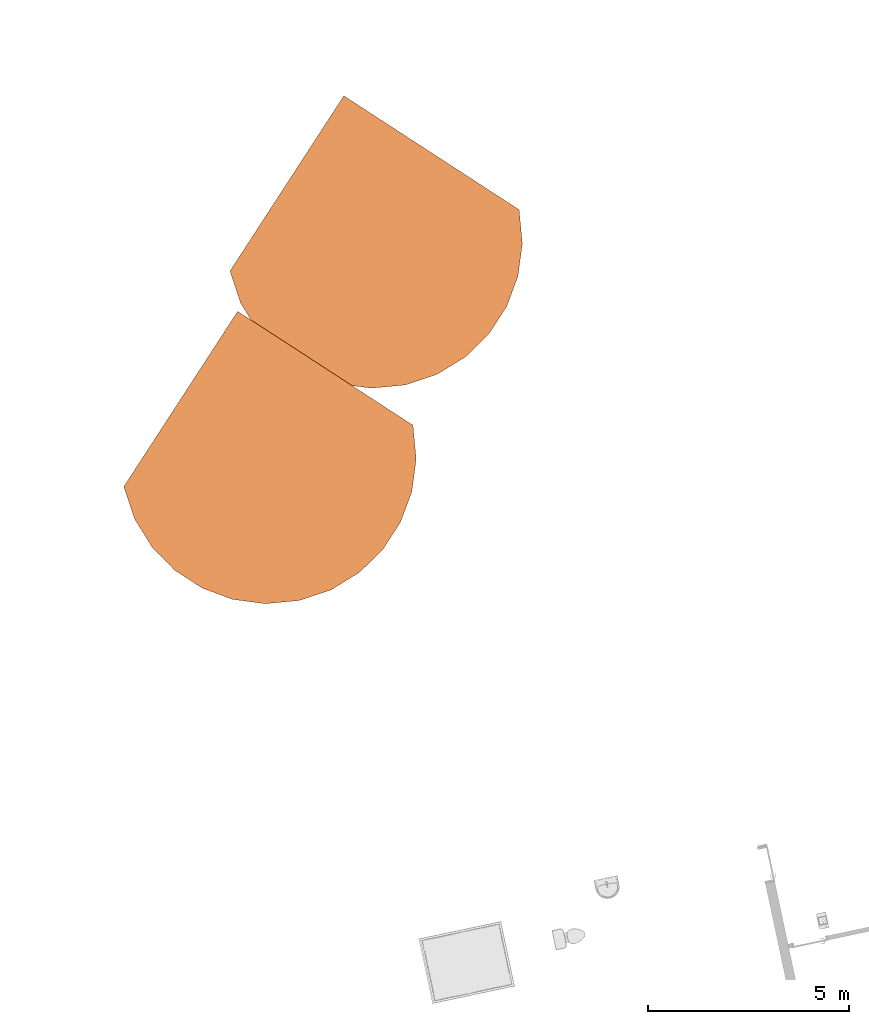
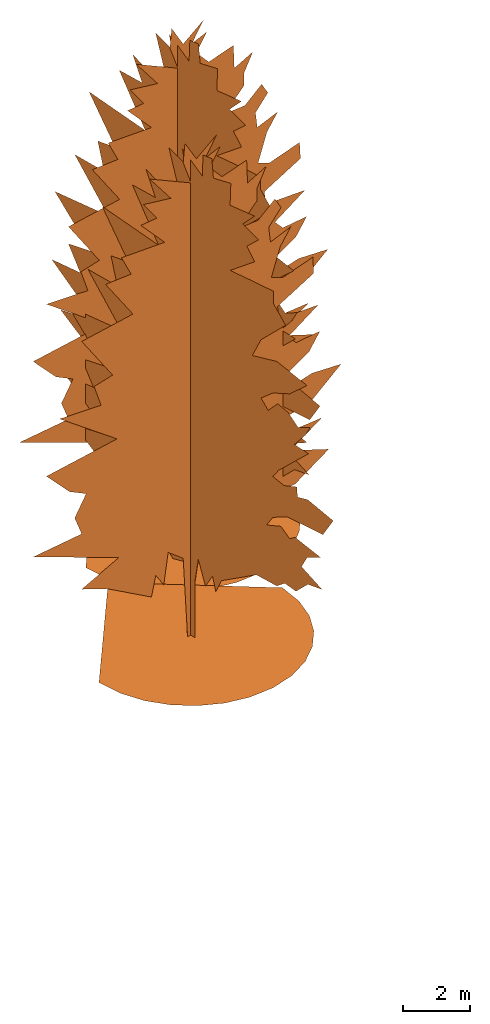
# One storey, part 16 of 17: 2 proxies.
"""IFC2X3 building model written with IfcOpenShell, lengths in centimetres."""

from ifc_helpers import new_model, entity, si_unit, converted_unit, derived_unit, direction, frame, origin, place, context, subcontext, project, spatial, face_set, surface_model, source, transform, mapped, material, type_object, type_shapes, element, save


model = new_model("IFC2X3")

# Units and contexts
model_context = context("Model", 3, precision=0.001, world=origin(), true_north=direction((6.12303176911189e-17, 1.0)))
body_context = subcontext(model_context, "Body", "Model", "MODEL_VIEW")
ifc_project = project(units=[si_unit("LENGTHUNIT", "METRE", prefix="CENTI"), si_unit("AREAUNIT", "SQUARE_METRE"), si_unit("VOLUMEUNIT", "CUBIC_METRE"), converted_unit("PLANEANGLEUNIT", "DEGREE", entity("IfcRatioMeasure", 0.0174532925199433), si_unit("PLANEANGLEUNIT", "RADIAN"), dimensions=[0, 0, 0, 0, 0, 0, 0]), si_unit("MASSUNIT", "GRAM", prefix="KILO"), derived_unit("MASSDENSITYUNIT", [(si_unit("MASSUNIT", "GRAM", prefix="KILO"), 1), (si_unit("LENGTHUNIT", "METRE"), -3)]), derived_unit("IONCONCENTRATIONUNIT", [(si_unit("MASSUNIT", "GRAM", prefix="KILO"), 1), (si_unit("LENGTHUNIT", "METRE"), -3)]), derived_unit("MOMENTOFINERTIAUNIT", [(si_unit("LENGTHUNIT", "METRE"), 4)]), si_unit("TIMEUNIT", "SECOND"), si_unit("FREQUENCYUNIT", "HERTZ"), si_unit("THERMODYNAMICTEMPERATUREUNIT", "DEGREE_CELSIUS"), derived_unit("THERMALTRANSMITTANCEUNIT", [(si_unit("MASSUNIT", "GRAM", prefix="KILO"), 1), (si_unit("THERMODYNAMICTEMPERATUREUNIT", "KELVIN"), -1), (si_unit("TIMEUNIT", "SECOND"), -3)]), derived_unit("THERMALCONDUCTANCEUNIT", [(si_unit("MASSUNIT", "GRAM", prefix="KILO"), 1), (si_unit("THERMODYNAMICTEMPERATUREUNIT", "KELVIN"), -1), (si_unit("TIMEUNIT", "SECOND"), -3), (si_unit("LENGTHUNIT", "METRE"), 1)]), derived_unit("VOLUMETRICFLOWRATEUNIT", [(si_unit("LENGTHUNIT", "METRE"), 3), (si_unit("TIMEUNIT", "SECOND"), -1)]), derived_unit("MASSFLOWRATEUNIT", [(si_unit("MASSUNIT", "GRAM", prefix="KILO"), 1), (si_unit("TIMEUNIT", "SECOND"), -1)]), derived_unit("ROTATIONALFREQUENCYUNIT", [(si_unit("TIMEUNIT", "SECOND"), -1)]), si_unit("ELECTRICCURRENTUNIT", "AMPERE"), si_unit("ELECTRICVOLTAGEUNIT", "VOLT"), si_unit("POWERUNIT", "WATT"), si_unit("FORCEUNIT", "NEWTON", prefix="KILO"), si_unit("ILLUMINANCEUNIT", "LUX"), si_unit("LUMINOUSFLUXUNIT", "LUMEN"), si_unit("LUMINOUSINTENSITYUNIT", "CANDELA"), derived_unit("USERDEFINED", [(si_unit("MASSUNIT", "GRAM", prefix="KILO"), -1), (si_unit("LENGTHUNIT", "METRE"), -2), (si_unit("TIMEUNIT", "SECOND"), 3), (si_unit("LUMINOUSFLUXUNIT", "LUMEN"), 1)]), derived_unit("USERDEFINED", [(si_unit("MASSUNIT", "GRAM", prefix="KILO"), 1), (si_unit("TIMEUNIT", "SECOND"), -3), (si_unit("LENGTHUNIT", "METRE"), 3), (si_unit("ELECTRICCURRENTUNIT", "AMPERE"), -2)]), derived_unit("SOUNDPOWERUNIT", [(si_unit("MASSUNIT", "GRAM", prefix="KILO"), 1), (si_unit("TIMEUNIT", "SECOND"), -3), (si_unit("LENGTHUNIT", "METRE"), 2)]), derived_unit("SOUNDPRESSUREUNIT", [(si_unit("MASSUNIT", "GRAM", prefix="KILO"), 1), (si_unit("LENGTHUNIT", "METRE"), -1), (si_unit("TIMEUNIT", "SECOND"), -2)]), derived_unit("LINEARVELOCITYUNIT", [(si_unit("LENGTHUNIT", "METRE"), 1), (si_unit("TIMEUNIT", "SECOND"), -1)]), si_unit("PRESSUREUNIT", "PASCAL"), derived_unit("USERDEFINED", [(si_unit("MASSUNIT", "GRAM", prefix="KILO"), 1), (si_unit("LENGTHUNIT", "METRE"), -2), (si_unit("TIMEUNIT", "SECOND"), -2)]), derived_unit("LINEARFORCEUNIT", [(si_unit("MASSUNIT", "GRAM", prefix="KILO"), 1), (si_unit("TIMEUNIT", "SECOND"), -2)]), derived_unit("PLANARFORCEUNIT", [(si_unit("MASSUNIT", "GRAM", prefix="KILO"), 1), (si_unit("LENGTHUNIT", "METRE"), -1), (si_unit("TIMEUNIT", "SECOND"), -2)]), derived_unit("SPECIFICHEATCAPACITYUNIT", [(si_unit("THERMODYNAMICTEMPERATUREUNIT", "KELVIN"), -1), (si_unit("LENGTHUNIT", "METRE"), 2), (si_unit("TIMEUNIT", "SECOND"), -2)]), derived_unit("HEATINGVALUEUNIT", [(si_unit("LENGTHUNIT", "METRE"), 2), (si_unit("TIMEUNIT", "SECOND"), -2)]), derived_unit("VAPORPERMEABILITYUNIT", [(si_unit("LENGTHUNIT", "METRE"), -1), (si_unit("TIMEUNIT", "SECOND"), 1)]), derived_unit("DYNAMICVISCOSITYUNIT", [(si_unit("MASSUNIT", "GRAM", prefix="KILO"), 1), (si_unit("TIMEUNIT", "SECOND"), -1), (si_unit("LENGTHUNIT", "METRE"), -1)]), derived_unit("THERMALEXPANSIONCOEFFICIENTUNIT", [(si_unit("THERMODYNAMICTEMPERATUREUNIT", "KELVIN"), -1)]), derived_unit("MODULUSOFELASTICITYUNIT", [(si_unit("MASSUNIT", "GRAM", prefix="KILO"), 1), (si_unit("LENGTHUNIT", "METRE"), -1), (si_unit("TIMEUNIT", "SECOND"), -2)]), derived_unit("ISOTHERMALMOISTURECAPACITYUNIT", [(si_unit("LENGTHUNIT", "METRE"), 3), (si_unit("MASSUNIT", "GRAM", prefix="KILO"), -1)]), derived_unit("MOISTUREDIFFUSIVITYUNIT", [(si_unit("TIMEUNIT", "SECOND"), -1), (si_unit("LENGTHUNIT", "METRE"), 2)])], contexts=[model_context])

# Site, building, storey
site_placement = place(None, frame((14083.8920177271, -6853.25409548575, 6900.0), z_axis=(0.0, 0.0, 1.0), x_axis=(0.978188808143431, 0.207717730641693, 0.0)))
site = spatial("IfcSite", under=ifc_project, at=site_placement, Name="Surface", CompositionType="ELEMENT")
building_placement = place(site_placement, origin())
building = spatial("IfcBuilding", under=site, at=building_placement, CompositionType="ELEMENT")
storey_placement = place(building_placement, origin())
storey = spatial("IfcBuildingStorey", under=building, at=storey_placement, Name="_Rez de chaussée Séjour", CompositionType="ELEMENT", Elevation=2.07727662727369e-10)

# Proxies
ifc_material = material(Name="<Unnamed>")
building_element_proxy_type = type_object("IfcBuildingElementProxyType", Name="PLANTE- Conifères divers:Pin en tige remontée_ Grand", PredefinedType="NOTDEFINED", material=ifc_material)
shared_shape = source(origin(), body_context, "Body", "SurfaceModel", [
    surface_model("IfcFaceBasedSurfaceModel", [(367.677470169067, 3.21416517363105e-05, 4.60540132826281e-05), (0.0196188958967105, 367.657791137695, 4.60540132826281e-05), (-367.638112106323, 0.0, 4.60540132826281e-05), (357.958208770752, -84.2430701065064, 4.60540132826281e-05), (-357.918850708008, -84.2430701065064, 4.60540132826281e-05), (330.27643913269, -161.606385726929, 4.60540132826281e-05), (-330.237081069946, -161.606385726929, 4.60540132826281e-05), (-286.810545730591, -229.874428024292, 4.60540132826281e-05), (286.849903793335, -229.874428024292, 4.60540132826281e-05), (229.894092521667, -286.830224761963, 4.60540132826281e-05), (-229.854763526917, -286.830224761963, 4.60540132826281e-05), (-161.586721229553, -330.256760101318, 4.60540132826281e-05), (-84.2234056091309, -357.93852973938, 4.60540132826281e-05), (0.0196831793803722, -367.657791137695, 4.60540132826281e-05), (84.2627346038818, -357.93852973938, 4.60540132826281e-05), (161.626050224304, -330.256760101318, 4.60540132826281e-05), (22.7530098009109, -0.000102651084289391, 1722.20383209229), (104.088995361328, -0.000105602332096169, 1771.71139160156), (58.1164381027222, -0.000101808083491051, 1708.05888153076), (-288.445562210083, -2.48723456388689e-05, 417.289093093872), (-631.471862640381, -3.45683517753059e-05, 579.961227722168), (-436.972659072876, -3.41467786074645e-05, 572.88869430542), (-79.8014008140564, -9.69600752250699e-05, 1626.72128814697), (-164.673713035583, -0.000103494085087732, 1736.34889892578), (1.53486327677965, -9.80138279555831e-05, 1644.39881378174), (-295.518793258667, -5.0798665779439e-05, 852.26315322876), (-525.381245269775, -6.15485736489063e-05, 1032.61580749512), (-359.172843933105, -5.98623502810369e-05, 1004.3257901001), (394.069231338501, -3.30928768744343e-05, 555.206692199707), (524.914297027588, -3.24605517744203e-05, 544.597921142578), (408.214995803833, -2.9088021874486e-05, 488.016374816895), (386.996726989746, -5.83868719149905e-05, 979.568231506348), (510.769288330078, -5.73328974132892e-05, 961.883264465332), (390.53299369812, -5.37496190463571e-05, 901.770712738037), (-30.2922825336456, -0.000103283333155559, 1732.80888244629), (-23.2195529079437, -0.00010728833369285, 1800.00140899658), (319.806438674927, -7.630355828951e-05, 1280.16104644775), (401.142491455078, -7.73573110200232e-05, 1297.83857208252), (358.705953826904, -7.41955330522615e-05, 1244.79099609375), (118.234011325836, -0.000102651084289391, 1722.20383209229), (75.7982221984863, -9.92783326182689e-05, 1665.62379730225), (-136.382939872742, -9.42195724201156e-05, 1580.74630371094), (-189.428234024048, -9.86460768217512e-05, 1655.01130554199), (227.860844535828, -9.16905700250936e-05, 1538.31121948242), (302.124407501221, -9.3165826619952e-05, 1563.06877807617), (266.761129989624, -8.9582323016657e-05, 1502.94872680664), (-334.418337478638, -1.93920157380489e-05, 325.344269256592), (-436.972659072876, -2.21322170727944e-05, 371.316288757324), (-90.4101573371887, -2.04459157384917e-05, 343.025515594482), (-108.092173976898, -1.3911685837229e-05, 233.398689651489), (-139.919192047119, -1.68626391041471e-05, 282.907731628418), (486.014810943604, -4.32104596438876e-05, 724.951331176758), (602.714141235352, -4.19458094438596e-05, 703.733091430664), (478.941550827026, -3.70978046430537e-05, 622.39700958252), (-104.555921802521, -8.81070733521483e-05, 1478.19116821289), (-200.03699054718, -9.44310728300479e-05, 1584.28632019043), (89.9432381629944, -1.53871624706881e-05, 258.153196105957), (68.7254925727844, -1.20146343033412e-05, 201.57166431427), (33.3619934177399, -1.62303122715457e-05, 272.298960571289), (-486.480974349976, -4.46859345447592e-05, 749.705866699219), (-578.426553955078, -5.05878410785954e-05, 848.723194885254), (440.042035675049, -2.78232971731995e-05, 466.798135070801), (553.20507019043, -2.48723456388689e-05, 417.289093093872), (418.823766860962, -2.10783170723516e-05, 353.635042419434), (-231.864015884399, -7.6092813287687e-05, 1276.62102996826), (-341.490841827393, -8.55780709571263e-05, 1435.75620025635), (-238.936520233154, -8.49458151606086e-05, 1425.15114990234), (422.360760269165, -5.16418155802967e-05, 866.408220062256), (517.841821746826, -5.1430990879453e-05, 862.868203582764), (475.405313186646, -4.82692891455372e-05, 809.820627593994), (-277.836791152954, -8.9582323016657e-05, 1502.94872680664), (365.778458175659, -2.59263201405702e-05, 434.971095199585), (-313.200068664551, -6.51318554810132e-05, 1092.7284173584), (-436.972659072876, -7.58820613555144e-05, 1273.08857116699), (351.633449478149, -2.10783170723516e-05, 353.635042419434), (-419.290656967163, -4.23673098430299e-05, 710.806322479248), (358.705953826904, -5.73328974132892e-05, 961.883264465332), (337.487685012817, -4.46859345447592e-05, 749.705866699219), (-157.600467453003, -1.26469602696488e-05, 212.181176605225), (8.60762412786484, -8.22053123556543e-06, 137.917613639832), (12.1438772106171, 0.0, 0.0), (-12.6104929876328, 0.0, 0.0), (-30.2922825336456, -1.74949642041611e-05, 293.517229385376), (-387.463617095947, -6.47103516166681e-05, 1085.65582580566), (362.242220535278, -4.23673098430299e-05, 710.806322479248), (390.53299369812, -3.66762280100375e-05, 615.324476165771), (125.307264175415, -9.59063294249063e-05, 1609.03632110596), (224.32459236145, -9.67493302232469e-05, 1623.18127166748), (369.315480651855, -6.72397282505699e-05, 1128.09835144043), (489.551048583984, -6.82936265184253e-05, 1145.7758770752), (493.087286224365, -6.47103516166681e-05, 1085.65582580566), (348.097211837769, -6.15485736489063e-05, 1032.61580749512), (270.297396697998, -8.24160642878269e-05, 1382.70862426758), (337.487685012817, -8.51565670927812e-05, 1428.68360870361), (362.242220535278, -8.26268162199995e-05, 1386.24864074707), (312.73317855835, -7.96755614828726e-05, 1336.74108123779), (323.342676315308, -6.85043784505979e-05, 1149.31589355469), (192.497567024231, -1.51763377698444e-05, 254.616958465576), (153.598037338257, -1.30685351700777e-05, 219.253680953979), (-465.263432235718, -3.83624548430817e-05, 643.615249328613), (266.761129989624, -8.68425686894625e-05, 1456.97362609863), (188.961314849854, -8.2837568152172e-05, 1389.78865722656), (270.297396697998, -1.77057889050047e-05, 297.05349609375), (0.0196671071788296, -479.405621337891, 1004.3257901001), (0.0196671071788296, -532.450930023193, 1032.61580749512), (0.0196671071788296, -511.232632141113, 993.713298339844), (0.0196671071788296, -493.5506300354, 505.697679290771), (0.0196671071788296, -585.496238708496, 470.334372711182), (0.0196671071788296, -521.841403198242, 456.189364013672), (0.0196671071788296, -465.259885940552, 597.643229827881), (0.0196671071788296, -578.422949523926, 583.497465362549), (0.0196671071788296, -518.305165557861, 551.670454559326), (0.0196671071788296, -175.279635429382, 1655.01130554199), (0.0196671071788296, -284.906475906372, 1672.69638885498), (0.0196671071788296, -231.861181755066, 1616.10879638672), (0.0196671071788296, 365.782033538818, 533.988452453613), (0.0196671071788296, 560.28120803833, 657.761013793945), (0.0196671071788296, 432.972350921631, 675.443015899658), (0.0196671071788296, -136.379364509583, 268.762722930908), (0.0196671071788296, -111.62483625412, 215.717428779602), (0.0196671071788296, -97.4798275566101, 265.226456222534), (0.0196671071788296, 344.563764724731, 396.070824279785), (0.0196671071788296, 521.380908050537, 495.088908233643), (0.0196671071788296, 157.137123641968, 1510.0212020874), (0.0196671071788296, 199.573661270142, 1591.35879547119), (0.0196671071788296, 33.3651254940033, 1534.77876068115), (0.0196671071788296, -461.723619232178, 933.593247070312), (0.0196671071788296, -525.377698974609, 933.593247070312), (0.0196671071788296, -390.997064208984, 802.748152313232), (0.0196671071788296, 26.2924703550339, 1700.98640625), (0.0196671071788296, 36.9014539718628, 1750.4938494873), (0.0196671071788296, -51.507190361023, 1697.44638977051), (0.0196671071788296, 309.200487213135, 947.738255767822), (0.0196671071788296, 457.726857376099, 1092.7284173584), (0.0196671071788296, 326.881762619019, 1099.80089263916), (0.0196671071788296, 277.373476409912, 1212.96851989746), (0.0196671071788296, 394.07280670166, 1354.41860687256), (0.0196671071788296, 142.992114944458, 1343.81355651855), (0.0196671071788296, 387.000302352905, 777.998151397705), (0.0196671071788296, 546.135443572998, 912.375704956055), (0.0196671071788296, -383.923804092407, 1195.28343658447), (0.0196671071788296, -518.305165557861, 1177.60591094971), (0.0196671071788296, -440.505350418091, 1106.88092559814), (0.0196671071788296, -65.6525769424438, 212.181176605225), (0.0196671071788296, -33.8254753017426, 293.517229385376), (0.0196671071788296, 54.5832453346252, 1598.43127075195), (0.0196671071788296, 97.0193251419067, 1722.20383209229), (0.0196671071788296, 284.445980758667, 236.935683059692), (0.0196671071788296, 464.799361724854, 339.489277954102), (0.0196671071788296, 259.691445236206, 1502.94872680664), (0.0196671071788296, -302.587751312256, 1594.89125427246), (0.0196671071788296, -249.542442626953, 1545.38369476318), (0.0196671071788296, -521.841403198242, 763.853084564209), (0.0196671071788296, -635.004495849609, 746.169570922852), (0.0196671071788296, -589.032476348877, 671.906022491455), (0.0196671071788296, -429.896608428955, 654.224776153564), (0.0196671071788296, -475.86938369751, 749.705866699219), (0.0196671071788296, 486.01763053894, 753.240592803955), (0.0196671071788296, -415.750843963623, 760.313126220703), (0.0196671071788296, -472.332390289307, 785.070626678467), (0.0196671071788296, -101.016079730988, 1715.13135681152), (0.0196671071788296, -178.81588760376, 1736.34889892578), (0.0196671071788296, -366.242528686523, 1071.51087524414), (0.0196671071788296, -274.296978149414, 1159.92094390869), (0.0196671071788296, 125.310098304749, 275.835227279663), (0.0196671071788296, 135.918854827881, 198.035412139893), (0.0196671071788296, -281.370238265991, 1432.22362518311), (0.0196671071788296, -369.778795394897, 1442.82867553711), (0.0196671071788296, -369.778795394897, 1396.86113250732), (0.0196671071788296, -313.197249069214, 1025.54333221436), (0.0196671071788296, -55.0435951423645, 1775.2439666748), (0.0196671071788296, -93.9435753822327, 1782.31644195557), (0.0196671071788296, 355.17253578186, 1195.28343658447), (0.0196671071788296, -284.906475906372, 1506.48118560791), (0.0196671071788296, -175.279635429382, 1418.07867462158), (0.0196671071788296, -422.824075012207, 1347.3461315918), (0.0196671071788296, -313.197249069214, 1237.71852081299), (0.0196671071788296, -19.6800905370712, 212.181176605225), (0.0196671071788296, -19.6800905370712, 4.60540132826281e-05), (0.0196671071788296, 15.68333776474, 4.60540132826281e-05), (0.0196671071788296, 26.2924703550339, 190.962907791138), (0.0196671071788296, 33.3651254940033, 251.080691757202), (0.0196671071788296, -440.505350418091, 579.961227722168), (0.0196671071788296, -468.796123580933, 403.144084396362), (0.0196671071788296, -419.287837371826, 406.680322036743), (0.0196671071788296, -366.242528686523, 767.385601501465), (0.0196671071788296, -366.242528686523, 618.860771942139), (0.0196671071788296, -433.432846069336, 1036.14838256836), (0.0196671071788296, -387.460070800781, 1043.22085784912), (0.0196671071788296, -345.02428894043, 997.253314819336), (0.0196671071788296, -401.605835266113, 604.715705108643), (0.0196671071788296, -337.951784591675, 576.424990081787), (0.0196671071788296, -383.923804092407, 378.389548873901), (0.0196671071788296, -291.978980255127, 371.316288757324), (0.0196671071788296, 79.3373157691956, 236.935683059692)], [face_set([[[0, 1, 2]], [[3, 0, 2]], [[3, 2, 4]], [[5, 3, 4]], [[5, 4, 6]], [[5, 6, 7]], [[8, 5, 7]], [[9, 8, 7]], [[9, 7, 10]], [[9, 10, 11]], [[9, 11, 12]], [[9, 12, 13]], [[9, 13, 14]], [[9, 14, 15]], [[16, 17, 18]], [[19, 20, 21]], [[22, 23, 24]], [[25, 26, 27]], [[28, 29, 30]], [[31, 32, 33]], [[34, 35, 16]], [[36, 37, 38]], [[18, 39, 40]], [[41, 42, 22]], [[43, 44, 45]], [[46, 47, 19]], [[48, 49, 50]], [[51, 52, 53]], [[54, 55, 41]], [[56, 57, 58]], [[59, 60, 25]], [[61, 62, 63]], [[64, 65, 66]], [[67, 68, 69]], [[66, 70, 54]], [[71, 61, 63]], [[72, 73, 64]], [[71, 63, 74]], [[75, 59, 25]], [[24, 34, 16]], [[76, 31, 33]], [[67, 69, 77]], [[50, 78, 46]], [[79, 80, 81]], [[79, 81, 82]], [[58, 79, 82]], [[50, 46, 19]], [[27, 83, 72]], [[84, 51, 53]], [[84, 53, 85]], [[24, 16, 18]], [[24, 18, 40]], [[86, 87, 43]], [[88, 89, 90]], [[88, 90, 91]], [[92, 93, 94]], [[92, 94, 95]], [[48, 50, 19]], [[33, 67, 77]], [[96, 88, 91]], [[97, 98, 56]], [[64, 66, 54]], [[54, 41, 22]], [[54, 22, 24]], [[36, 38, 96]], [[24, 40, 86]], [[54, 24, 86]], [[54, 86, 43]], [[21, 99, 75]], [[54, 43, 45]], [[54, 45, 100]], [[54, 100, 101]], [[64, 54, 101]], [[72, 64, 101]], [[19, 21, 75]], [[19, 75, 25]], [[48, 19, 25]], [[28, 30, 71]], [[25, 27, 72]], [[25, 72, 101]], [[48, 25, 101]], [[48, 101, 92]], [[48, 92, 95]], [[48, 95, 36]], [[48, 36, 96]], [[48, 96, 91]], [[48, 91, 76]], [[48, 76, 33]], [[48, 33, 77]], [[48, 77, 84]], [[48, 84, 85]], [[48, 85, 28]], [[48, 28, 71]], [[82, 48, 71]], [[58, 82, 71]], [[56, 58, 71]], [[97, 56, 71]], [[102, 97, 71]], [[74, 102, 71]], [[103, 104, 105]], [[106, 107, 108]], [[109, 110, 111]], [[112, 113, 114]], [[115, 116, 117]], [[118, 119, 120]], [[121, 122, 115]], [[123, 124, 125]], [[126, 127, 128]], [[129, 130, 131]], [[132, 133, 134]], [[135, 136, 137]], [[138, 139, 132]], [[140, 141, 142]], [[120, 143, 144]], [[145, 146, 129]], [[147, 148, 121]], [[137, 149, 123]], [[114, 150, 151]], [[152, 153, 154]], [[152, 154, 155]], [[156, 152, 155]], [[103, 105, 126]], [[117, 157, 138]], [[158, 159, 156]], [[160, 161, 112]], [[158, 156, 155]], [[140, 142, 162]], [[163, 140, 162]], [[164, 165, 147]], [[166, 167, 168]], [[163, 162, 169]], [[170, 171, 160]], [[131, 170, 160]], [[134, 172, 135]], [[151, 173, 174]], [[168, 175, 176]], [[177, 178, 179]], [[177, 179, 180]], [[177, 180, 181]], [[144, 177, 181]], [[166, 168, 176]], [[174, 166, 176]], [[137, 123, 125]], [[164, 147, 121]], [[109, 111, 106]], [[182, 109, 106]], [[145, 129, 131]], [[106, 108, 183]], [[106, 183, 184]], [[185, 158, 155]], [[185, 155, 186]], [[182, 106, 184]], [[187, 103, 126]], [[188, 187, 126]], [[189, 188, 126]], [[189, 126, 128]], [[125, 145, 131]], [[190, 182, 184]], [[191, 190, 184]], [[191, 184, 192]], [[191, 192, 193]], [[174, 176, 163]], [[131, 160, 112]], [[125, 131, 112]], [[125, 112, 114]], [[125, 114, 151]], [[125, 151, 174]], [[137, 125, 174]], [[137, 174, 163]], [[135, 137, 163]], [[134, 135, 163]], [[132, 134, 163]], [[132, 163, 169]], [[138, 132, 169]], [[138, 169, 189]], [[138, 189, 128]], [[138, 128, 185]], [[138, 185, 186]], [[138, 186, 191]], [[138, 191, 193]], [[138, 193, 118]], [[138, 118, 120]], [[138, 120, 144]], [[117, 138, 144]], [[115, 117, 144]], [[121, 115, 144]], [[164, 121, 144]], [[164, 144, 181]], [[194, 164, 181]]])]),
])
type_shapes(building_element_proxy_type, [shared_shape])
for number, where, name in (
    (1, (-8151.97481040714, 16614.6673447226, -70.0), "PLANTE- Conifères divers:Pin en tige remontée_ Grand"),
    (2, (-7782.45481040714, 17084.1873447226, -70.0), "PLANTE- Conifères divers:Pin en tige remontée_ Grand"),
):
    element("IfcBuildingElementProxy", number, at=place(storey_placement, frame(where)), inside=storey, type_object=building_element_proxy_type, material=ifc_material, Name=name, ObjectType="PLANTE- Conifères divers:Pin en tige remontée_ Grand", context=body_context, shape_type="MappedRepresentation", body=[
        mapped(shared_shape, transform((0.0, 0.0, 0.0), scale=1.0)),
    ])

save(model, "model.ifc")
